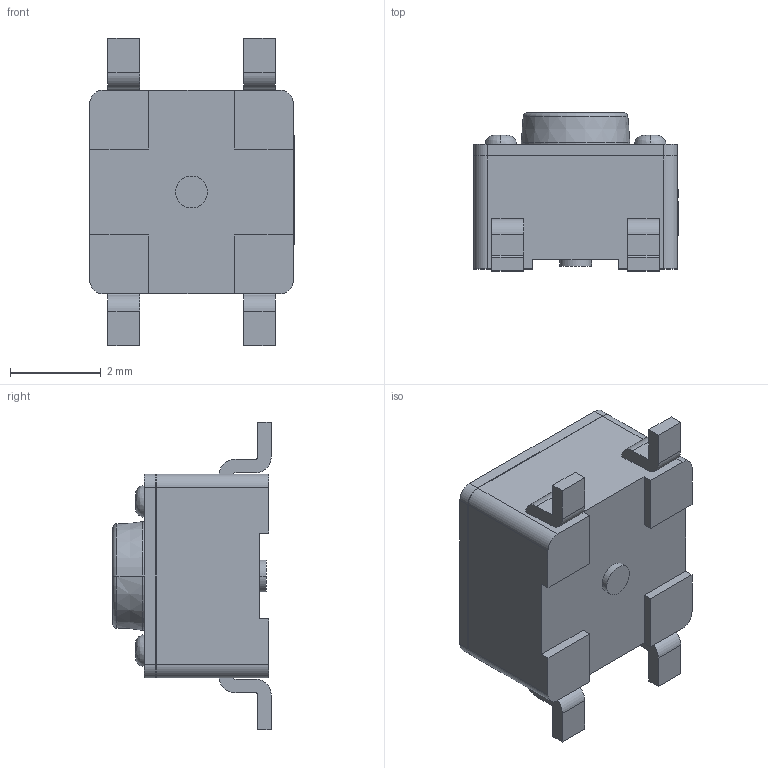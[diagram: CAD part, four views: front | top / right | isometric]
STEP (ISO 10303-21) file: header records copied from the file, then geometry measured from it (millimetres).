
FILE_DESCRIPTION((''),'2;1');
FILE_NAME('ASM0003_ASM','2024-01-06T',('WYH'),(''),'PRO/ENGINEER BY PARAMETRIC TECHNOLOGY CORPORATION, 2013040','PRO/ENGINEER BY PARAMETRIC TECHNOLOGY CORPORATION, 2013040','');
FILE_SCHEMA(('CONFIG_CONTROL_DESIGN'));
Length unit declared in the file: millimetre
Products named in the file (1): ASM0003_ASM
Bounding box: 4.52 x 3.5 x 6.8 mm (x, y, z)
Volume: 57.5 mm3; surface area: 149.2 mm2
Topology: 1 solids, 1 shells, 159 faces, 424 edges, 284 vertices
Faces by surface type: plane 106, cylinder 41, bspline 8, cone 2, torus 2
Entity records: 5192 total; most frequent: CARTESIAN_POINT 1083, ORIENTED_EDGE 848, DIRECTION 846, EDGE_CURVE 424, VECTOR 304, LINE 304, VERTEX_POINT 284, AXIS2_PLACEMENT_3D 271
